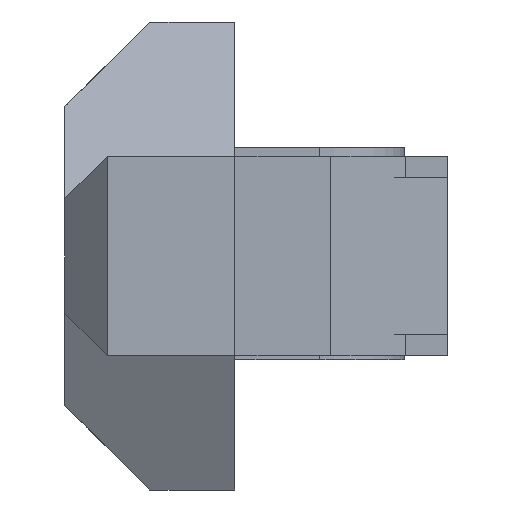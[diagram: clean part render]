
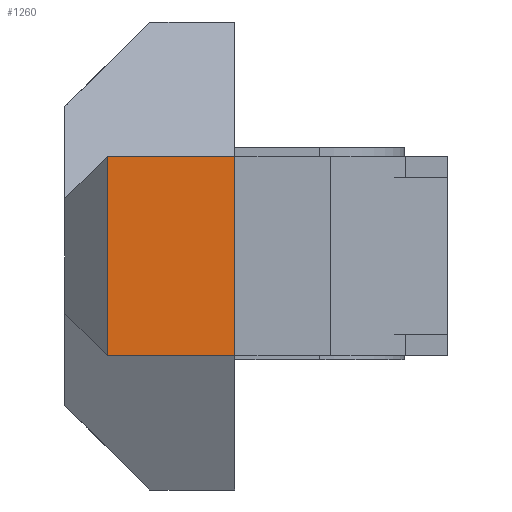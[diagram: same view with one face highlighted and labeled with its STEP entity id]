
A CAD part, front view. The second image highlights one B-rep face of the part: STEP entity #1260.
In plain terms, the highlighted planar face has unit normal (0, -1, 0).
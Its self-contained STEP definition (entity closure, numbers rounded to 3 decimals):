
#166=CARTESIAN_POINT('',(-15.,101.637,-25.706));
#167=VERTEX_POINT('',#166);
#174=CARTESIAN_POINT('',(-15.,101.637,-30.4));
#175=VERTEX_POINT('',#174);
#176=CARTESIAN_POINT('',(-15.,101.637,-30.4));
#177=DIRECTION('',(0.,0.,1.));
#178=VECTOR('',#177,4.694);
#179=LINE('',#176,#178);
#180=EDGE_CURVE('',#175,#167,#179,.T.);
#577=CARTESIAN_POINT('',(-18.,101.637,-30.4));
#578=VERTEX_POINT('',#577);
#579=CARTESIAN_POINT('',(-18.,101.637,-30.4));
#580=DIRECTION('',(1.,0.,-0.));
#581=VECTOR('',#580,3.);
#582=LINE('',#579,#581);
#583=EDGE_CURVE('',#578,#175,#582,.T.);
#712=CARTESIAN_POINT('',(-18.,101.637,-25.706));
#713=VERTEX_POINT('',#712);
#720=CARTESIAN_POINT('',(-18.,101.637,-25.706));
#721=DIRECTION('',(1.,0.,-0.));
#722=VECTOR('',#721,3.);
#723=LINE('',#720,#722);
#724=EDGE_CURVE('',#713,#167,#723,.T.);
#1244=CARTESIAN_POINT('',(-19.,101.637,-28.053));
#1245=DIRECTION('',(0.,1.,0.));
#1246=DIRECTION('',(0.,0.,1.));
#1247=AXIS2_PLACEMENT_3D('',#1244,#1245,#1246);
#1248=PLANE('',#1247);
#1249=ORIENTED_EDGE('',*,*,#180,.T.);
#1250=ORIENTED_EDGE('',*,*,#724,.F.);
#1251=CARTESIAN_POINT('',(-18.,101.637,-30.4));
#1252=DIRECTION('',(0.,0.,1.));
#1253=VECTOR('',#1252,4.694);
#1254=LINE('',#1251,#1253);
#1255=EDGE_CURVE('',#578,#713,#1254,.T.);
#1256=ORIENTED_EDGE('',*,*,#1255,.F.);
#1257=ORIENTED_EDGE('',*,*,#583,.T.);
#1258=EDGE_LOOP('',(#1249,#1250,#1256,#1257));
#1259=FACE_BOUND('',#1258,.T.);
#1260=ADVANCED_FACE('',(#1259),#1248,.F.);
